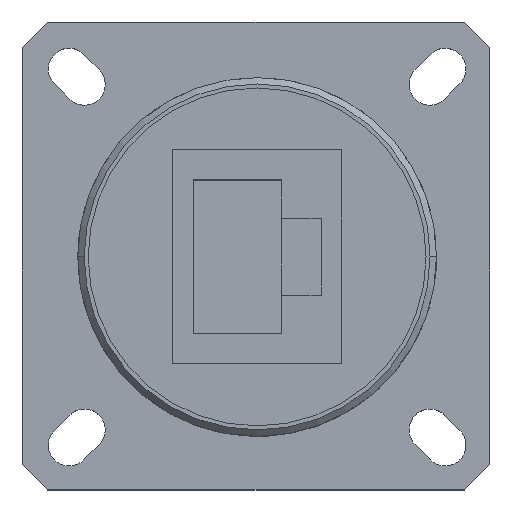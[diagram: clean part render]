
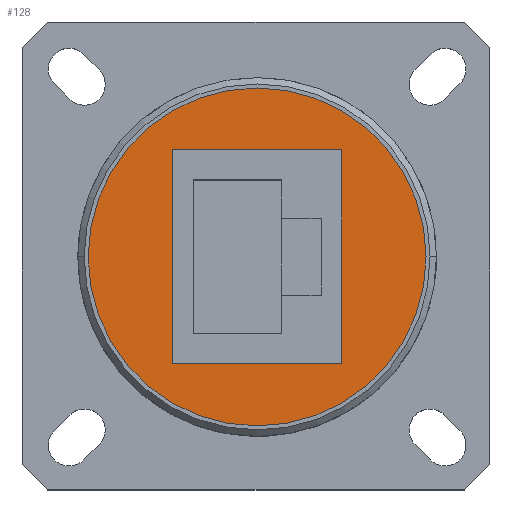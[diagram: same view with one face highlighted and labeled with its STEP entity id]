
A CAD part, top view. The second image highlights one B-rep face of the part: STEP entity #128.
In plain terms, the highlighted planar face has unit normal (0, 0, 1).
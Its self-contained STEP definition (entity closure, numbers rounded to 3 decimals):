
#128=ADVANCED_FACE('',(#290,#220),#874,.T.);
#220=FACE_OUTER_BOUND('',#349,.F.);
#290=FACE_BOUND('',#348,.F.);
#348=EDGE_LOOP('',(#610,#611,#612,#613));
#349=EDGE_LOOP('',(#614,#615));
#610=ORIENTED_EDGE('',*,*,#1356,.T.);
#611=ORIENTED_EDGE('',*,*,#1355,.T.);
#612=ORIENTED_EDGE('',*,*,#1357,.T.);
#613=ORIENTED_EDGE('',*,*,#1354,.T.);
#614=ORIENTED_EDGE('',*,*,#1245,.F.);
#615=ORIENTED_EDGE('',*,*,#1244,.F.);
#874=PLANE('',#1732);
#992=LINE('',#2556,#1156);
#993=LINE('',#2557,#1157);
#994=LINE('',#2558,#1158);
#995=LINE('',#2559,#1159);
#1156=VECTOR('',#1953,13.2);
#1157=VECTOR('',#1954,13.2);
#1158=VECTOR('',#1955,16.7);
#1159=VECTOR('',#1956,16.7);
#1244=EDGE_CURVE('',#1639,#1638,#1464,.T.);
#1245=EDGE_CURVE('',#1638,#1639,#1465,.T.);
#1354=EDGE_CURVE('',#1559,#1558,#992,.T.);
#1355=EDGE_CURVE('',#1557,#1556,#993,.T.);
#1356=EDGE_CURVE('',#1558,#1557,#994,.T.);
#1357=EDGE_CURVE('',#1556,#1559,#995,.T.);
#1464=CIRCLE('',#1664,13.188);
#1465=CIRCLE('',#1665,13.188);
#1556=VERTEX_POINT('',#2316);
#1557=VERTEX_POINT('',#2317);
#1558=VERTEX_POINT('',#2318);
#1559=VERTEX_POINT('',#2319);
#1638=VERTEX_POINT('',#2398);
#1639=VERTEX_POINT('',#2399);
#1664=AXIS2_PLACEMENT_3D('',#2400,#1815,#1816);
#1665=AXIS2_PLACEMENT_3D('',#2401,#1817,#1818);
#1732=AXIS2_PLACEMENT_3D('',#2666,#2101,#2102);
#1815=DIRECTION('',(0.,0.,1.));
#1816=DIRECTION('',(-1.,0.,0.));
#1817=DIRECTION('',(0.,0.,1.));
#1818=DIRECTION('',(1.,0.,0.));
#1953=DIRECTION('',(-1.,0.,0.));
#1954=DIRECTION('',(1.,0.,0.));
#1955=DIRECTION('',(0.,-1.,0.));
#1956=DIRECTION('',(0.,1.,0.));
#2101=DIRECTION('',(0.,0.,1.));
#2102=DIRECTION('',(0.,-1.,0.));
#2316=CARTESIAN_POINT('',(6.689,-8.439,10.9));
#2317=CARTESIAN_POINT('',(-6.511,-8.439,10.9));
#2318=CARTESIAN_POINT('',(-6.511,8.261,10.9));
#2319=CARTESIAN_POINT('',(6.689,8.261,10.9));
#2398=CARTESIAN_POINT('',(13.277,-0.089,10.9));
#2399=CARTESIAN_POINT('',(-13.099,-0.089,10.9));
#2400=CARTESIAN_POINT('',(0.089,-0.089,10.9));
#2401=CARTESIAN_POINT('',(0.089,-0.089,10.9));
#2556=CARTESIAN_POINT('',(6.689,8.261,10.9));
#2557=CARTESIAN_POINT('',(-6.511,-8.439,10.9));
#2558=CARTESIAN_POINT('',(-6.511,8.261,10.9));
#2559=CARTESIAN_POINT('',(6.689,-8.439,10.9));
#2666=CARTESIAN_POINT('',(-13.911,13.911,10.9));
